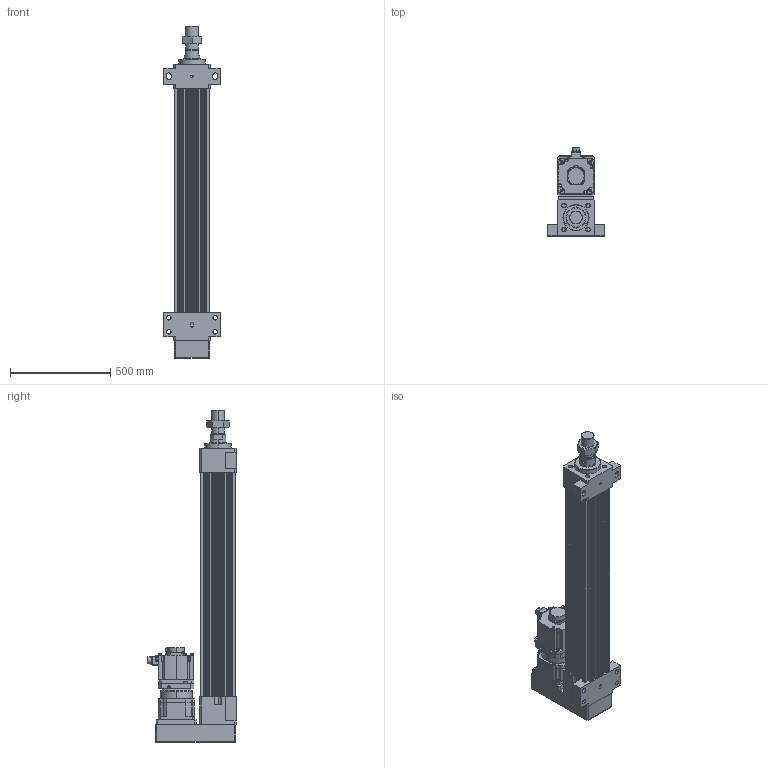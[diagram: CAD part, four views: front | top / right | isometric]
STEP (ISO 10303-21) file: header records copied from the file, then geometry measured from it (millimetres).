
FILE_DESCRIPTION (( 'STEP AP203' ), '1' );
FILE_NAME ('HES180HS-P800-W050G00-M-FFB.STEP', '2023-02-01T06:58:32', ( 'tms' ), ( '' ), 'SwSTEP 2.0', 'SolidWorks 2013', '' );
FILE_SCHEMA (( 'CONFIG_CONTROL_DESIGN' ));
Length unit declared in the file: millimetre
Products named in the file (9): HG-SR502; AB1801; M64X2.0P; AB180-003[HG-SR702B]; P1301600001; P0403600401; HES180HS-P800-W050G00-M-FFB; HES180 ROD M ST800; HES180-P800-G180-FFB
Assembly tree (8 placements, depth 3):
  HES180HS-P800-W050G00-M-FFB
    HES180-P800-G180-FFB
    HES180 ROD M ST800
    M64X2.0P
    AB180-003[HG-SR702B]
      AB1801
      P1301600001
      P0403600401
    HG-SR502
Bounding box: 280 x 438.85 x 1652 mm (x, y, z)
Volume: 34611882.2 mm3; surface area: 3131495.4 mm2
Topology: 4 solids, 19 shells, 1446 faces, 3761 edges, 2443 vertices
Faces by surface type: cylinder 668, plane 567, cone 144, bspline 63, torus 4
Entity records: 53114 total; most frequent: CARTESIAN_POINT 16078, DIRECTION 7777, ORIENTED_EDGE 7426, EDGE_CURVE 3737, AXIS2_PLACEMENT_3D 2922, VERTEX_POINT 2443, VECTOR 1933, LINE 1933
